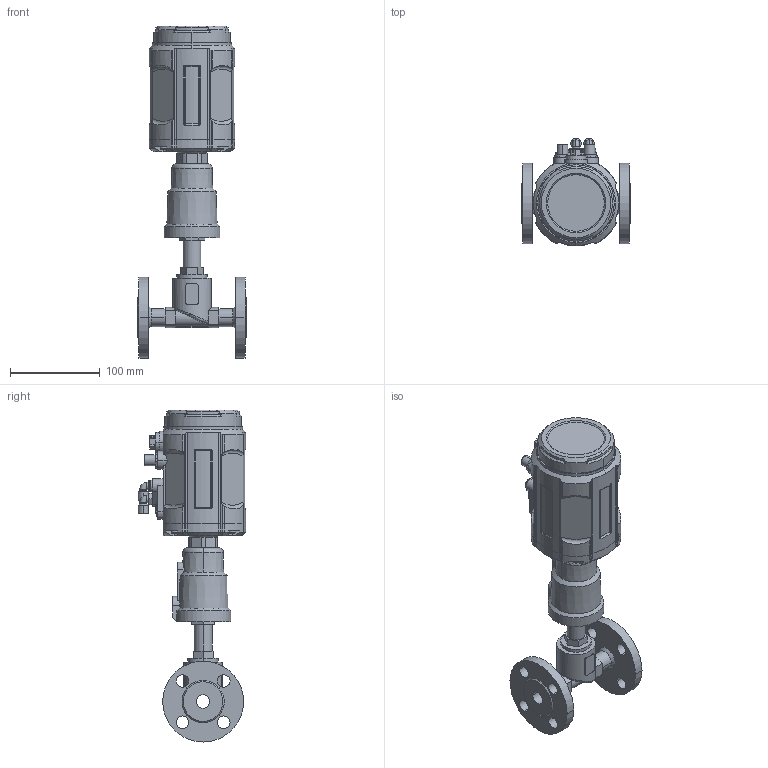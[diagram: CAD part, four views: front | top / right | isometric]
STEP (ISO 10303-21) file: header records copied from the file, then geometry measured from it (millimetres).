
FILE_DESCRIPTION((''),'2;1');
FILE_NAME('PV_F_EPP_P_2_ASM','2025-03-06T',('USER'),(''),'PRO/ENGINEER BY PARAMETRIC TECHNOLOGY CORPORATION, 2011220','PRO/ENGINEER BY PARAMETRIC TECHNOLOGY CORPORATION, 2011220','');
FILE_SCHEMA(('CONFIG_CONTROL_DESIGN'));
Length unit declared in the file: millimetre
Products named in the file (12): KLAPAN; PNEVMOPRIVOD; KOLCO_52_GOST13943; POZICIONER_VERX; POZICIONER_NIZ; SHLYAPKA_VINT; DET; DET_2; SHLYAPKA_VINT_2; DET_3; SB_POZICIONER_ASM; PV_F_EPP_P_2_ASM
Assembly tree (18 placements, depth 3):
  PV_F_EPP_P_2_ASM
    KLAPAN
    PNEVMOPRIVOD
    KOLCO_52_GOST13943
    SB_POZICIONER_ASM
      POZICIONER_VERX
      POZICIONER_NIZ
      SHLYAPKA_VINT  x4
      DET
      DET_2
      SHLYAPKA_VINT_2  x4
      DET_3  x2
Bounding box: 121 x 119.75 x 369.5 mm (x, y, z)
Volume: 1390722.4 mm3; surface area: 164845.6 mm2
Topology: 17 solids, 23 shells, 797 faces, 2004 edges, 1309 vertices
Faces by surface type: plane 380, cylinder 323, cone 46, torus 24, bspline 12, sphere 12
Entity records: 21415 total; most frequent: CARTESIAN_POINT 5258, DIRECTION 3387, ORIENTED_EDGE 3258, EDGE_CURVE 1641, AXIS2_PLACEMENT_3D 1283, VERTEX_POINT 1074, VECTOR 821, LINE 821
